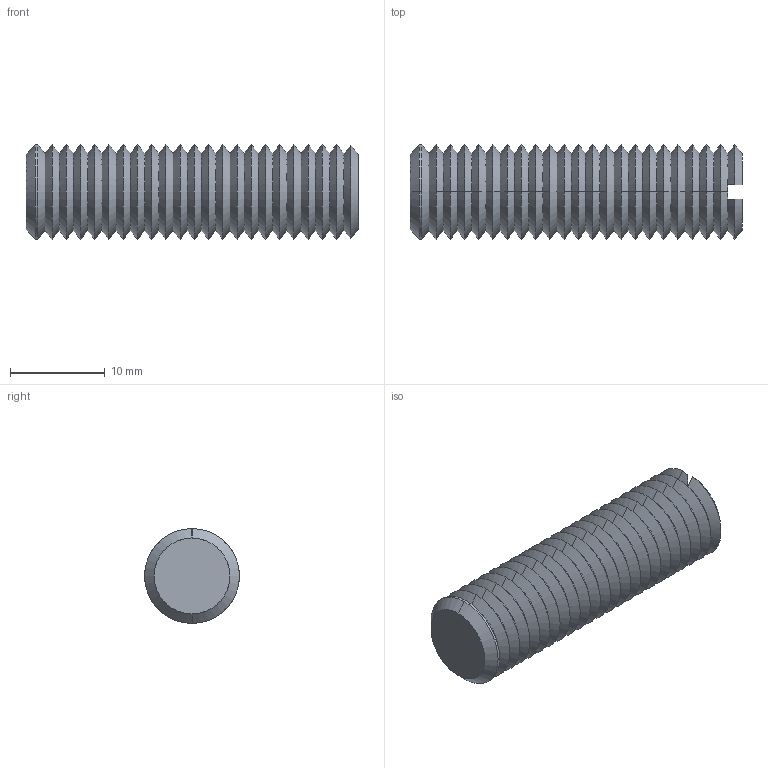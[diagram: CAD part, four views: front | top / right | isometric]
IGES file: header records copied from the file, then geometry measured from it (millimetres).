
Start section: SolidWorks IGES file using analytic representation for surfaces
Global section: file name: C:\Documents and Settings\IANO\Desktop\Temp File\Process pending\EXISTING\34300_v2\34300_v2_20170622_IGES\34300.W0102.igs; native system: SolidWorks 2009; preprocessor: SolidWorks 2009; author: IANO; date: 170622.093955; units: millimetre
Bounding box: 35 x 10 x 10 mm (x, y, z)
Surface area: 1707.1 mm2 (no closed solid volume)
Topology: 0 solids, 0 shells, 100 faces, 464 edges, 464 vertices
Faces by surface type: revolution 94, bspline 6
